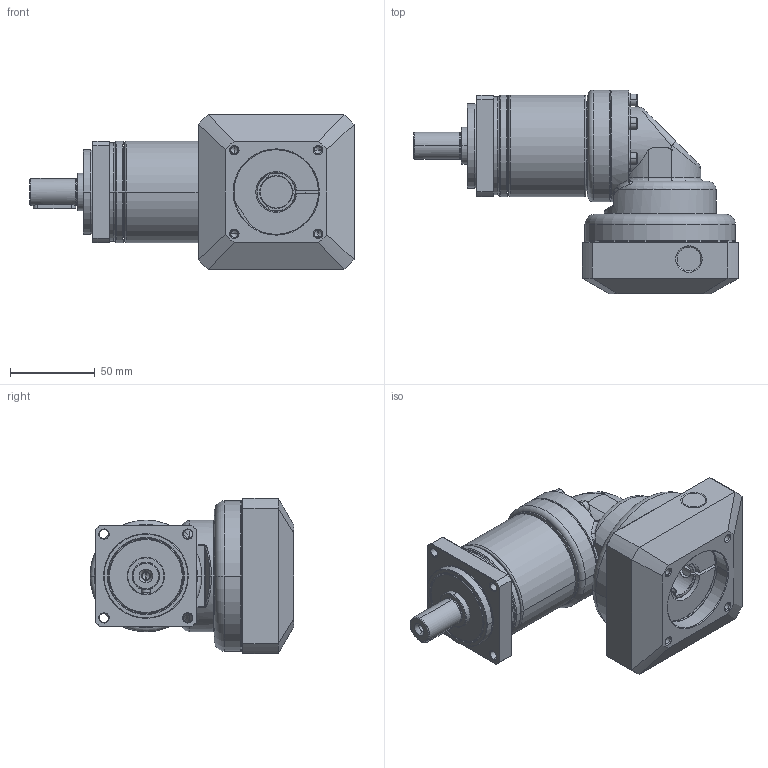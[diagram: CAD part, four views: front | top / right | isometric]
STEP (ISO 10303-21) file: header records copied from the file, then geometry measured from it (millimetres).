
FILE_DESCRIPTION((''),'2;1');
FILE_NAME('PA2R-060_2ST_19-P0411400101_ASM','2016-05-16T',('d01943'),(''),'PRO/ENGINEER BY PARAMETRIC TECHNOLOGY CORPORATION, 2008410','PRO/ENGINEER BY PARAMETRIC TECHNOLOGY CORPORATION, 2008410','');
FILE_SCHEMA(('CONFIG_CONTROL_DESIGN'));
Length unit declared in the file: millimetre
Products named in the file (12): P1327210001; P0251200001; P0350200001; P1349200001; P1017200001; P0713203001; P0503400008; P1350200301; P0411400101; P1702500001; 2111B104020; PA2R-060_2ST_19-P0411400101_ASM
Assembly tree (16 placements, depth 2):
  PA2R-060_2ST_19-P0411400101_ASM
    P1327210001
    P0251200001
    P0350200001
    P1349200001
    P1017200001
    P0713203001
    P0503400008
    P1350200301
    P0411400101
    P1702500001
    2111B104020  x6
Bounding box: 191.5 x 120.5 x 92 mm (x, y, z)
Volume: 540084.4 mm3; surface area: 147968.9 mm2
Topology: 16 solids, 16 shells, 815 faces, 1785 edges, 1031 vertices
Faces by surface type: cylinder 246, cone 234, plane 203, torus 100, bspline 32
Entity records: 23852 total; most frequent: CARTESIAN_POINT 9269, DIRECTION 3235, ORIENTED_EDGE 2818, EDGE_CURVE 1409, AXIS2_PLACEMENT_3D 1362, VERTEX_POINT 831, EDGE_LOOP 738, CIRCLE 716
